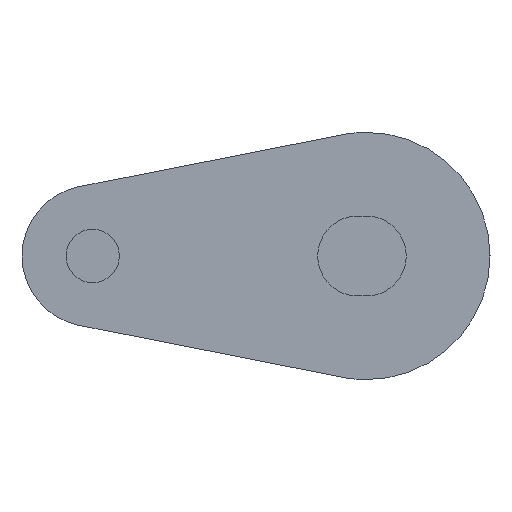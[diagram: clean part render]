
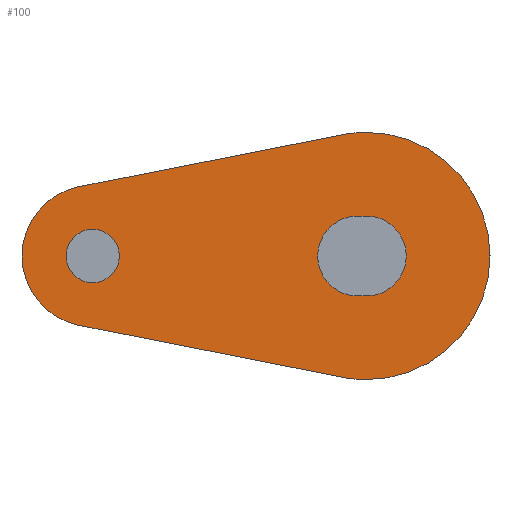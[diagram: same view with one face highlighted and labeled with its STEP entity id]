
A CAD part, left-side view. The second image highlights one B-rep face of the part: STEP entity #100.
In plain terms, the highlighted planar face has unit normal (-1, 0, 0).
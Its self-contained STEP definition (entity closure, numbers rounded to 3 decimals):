
#1 = CARTESIAN_POINT ( 'NONE',  ( -404.5, 15.5, 0. ) ) ;
#4 = CARTESIAN_POINT ( 'NONE',  ( -404.5, 0.5, -2.26 ) ) ;
#9 = DIRECTION ( 'NONE',  ( 0., 0., -1. ) ) ;
#11 = DIRECTION ( 'NONE',  ( 0., 1., 0. ) ) ;
#13 = CARTESIAN_POINT ( 'NONE',  ( -404.5, 0., 7. ) ) ;
#25 = CARTESIAN_POINT ( 'NONE',  ( -404.5, 0.5, 2.26 ) ) ;
#37 = CARTESIAN_POINT ( 'NONE',  ( -404.5, 0., -2.26 ) ) ;
#39 = CARTESIAN_POINT ( 'NONE',  ( -404.5, 0., 2.26 ) ) ;
#42 = CARTESIAN_POINT ( 'NONE',  ( -404.5, 0., -7. ) ) ;
#48 = CARTESIAN_POINT ( 'NONE',  ( -404.5, 0.5, -2.26 ) ) ;
#55 = CARTESIAN_POINT ( 'NONE',  ( -404.5, 1.355, 6.868 ) ) ;
#59 = DIRECTION ( 'NONE',  ( 0., 0., -1. ) ) ;
#63 = DIRECTION ( 'NONE',  ( -1., 0., 0. ) ) ;
#71 = CARTESIAN_POINT ( 'NONE',  ( -404.5, 15.5, 0. ) ) ;
#77 = PLANE ( 'NONE',  #923 ) ;
#100 = ADVANCED_FACE ( 'NONE', ( #330, #327, #320 ), #77, .T. ) ;
#159 = CARTESIAN_POINT ( 'NONE',  ( -404.5, 0.5, 0. ) ) ;
#160 = DIRECTION ( 'NONE',  ( 0., 0., -1. ) ) ;
#166 = DIRECTION ( 'NONE',  ( 1., 0., 0. ) ) ;
#185 = DIRECTION ( 'NONE',  ( 0., 0., -1. ) ) ;
#187 = DIRECTION ( 'NONE',  ( 1., 0., 0. ) ) ;
#188 = CARTESIAN_POINT ( 'NONE',  ( -404.5, 0.5, 2.26 ) ) ;
#195 = CARTESIAN_POINT ( 'NONE',  ( -404.5, 0., 0. ) ) ;
#196 = DIRECTION ( 'NONE',  ( 0., 0., -1. ) ) ;
#197 = DIRECTION ( 'NONE',  ( 1., 0., 0. ) ) ;
#198 = CARTESIAN_POINT ( 'NONE',  ( -404.5, 0., 0. ) ) ;
#208 = CARTESIAN_POINT ( 'NONE',  ( -404.5, 0., 0. ) ) ;
#214 = CARTESIAN_POINT ( 'NONE',  ( -404.5, 15.5, 0. ) ) ;
#215 = DIRECTION ( 'NONE',  ( 1., 0., 0. ) ) ;
#216 = DIRECTION ( 'NONE',  ( 0., 0., -1. ) ) ;
#222 = DIRECTION ( 'NONE',  ( 1., 0., 0. ) ) ;
#259 = CIRCLE ( 'NONE', #837, 7. ) ;
#274 = VECTOR ( 'NONE', #687, 1000. ) ;
#280 = LINE ( 'NONE', #688, #274 ) ;
#320 = FACE_OUTER_BOUND ( 'NONE', #446, .T. ) ;
#327 = FACE_BOUND ( 'NONE', #445, .T. ) ;
#330 = FACE_BOUND ( 'NONE', #443, .T. ) ;
#332 = ORIENTED_EDGE ( 'NONE', *, *, #789, .F. ) ;
#435 = ORIENTED_EDGE ( 'NONE', *, *, #874, .T. ) ;
#436 = ORIENTED_EDGE ( 'NONE', *, *, #879, .T. ) ;
#443 = EDGE_LOOP ( 'NONE', ( #644, #436, #435, #514 ) ) ;
#445 = EDGE_LOOP ( 'NONE', ( #576, #561 ) ) ;
#446 = EDGE_LOOP ( 'NONE', ( #508, #652, #526, #628, #496, #332 ) ) ;
#490 = CIRCLE ( 'NONE', #818, 7. ) ;
#494 = VECTOR ( 'NONE', #11, 1000. ) ;
#496 = ORIENTED_EDGE ( 'NONE', *, *, #877, .F. ) ;
#505 = CIRCLE ( 'NONE', #904, 4. ) ;
#508 = ORIENTED_EDGE ( 'NONE', *, *, #838, .F. ) ;
#514 = ORIENTED_EDGE ( 'NONE', *, *, #831, .T. ) ;
#517 = CIRCLE ( 'NONE', #866, 1.51 ) ;
#520 = LINE ( 'NONE', #4, #494 ) ;
#526 = ORIENTED_EDGE ( 'NONE', *, *, #810, .F. ) ;
#539 = VECTOR ( 'NONE', #675, 1000. ) ;
#548 = CIRCLE ( 'NONE', #909, 2.26 ) ;
#550 = CIRCLE ( 'NONE', #883, 2.26 ) ;
#551 = LINE ( 'NONE', #188, #539 ) ;
#552 = CIRCLE ( 'NONE', #939, 7. ) ;
#561 = ORIENTED_EDGE ( 'NONE', *, *, #891, .T. ) ;
#567 = CIRCLE ( 'NONE', #822, 1.51 ) ;
#576 = ORIENTED_EDGE ( 'NONE', *, *, #824, .T. ) ;
#579 = LINE ( 'NONE', #1010, #582 ) ;
#582 = VECTOR ( 'NONE', #1011, 1000. ) ;
#628 = ORIENTED_EDGE ( 'NONE', *, *, #830, .F. ) ;
#644 = ORIENTED_EDGE ( 'NONE', *, *, #870, .T. ) ;
#652 = ORIENTED_EDGE ( 'NONE', *, *, #906, .F. ) ;
#675 = DIRECTION ( 'NONE',  ( 0., -1., 0. ) ) ;
#687 = DIRECTION ( 'NONE',  ( 0., -0.981, 0.194 ) ) ;
#688 = CARTESIAN_POINT ( 'NONE',  ( -404.5, 16.274, 3.924 ) ) ;
#691 = VERTEX_POINT ( 'NONE', #13 ) ;
#696 = VERTEX_POINT ( 'NONE', #25 ) ;
#697 = VERTEX_POINT ( 'NONE', #39 ) ;
#704 = VERTEX_POINT ( 'NONE', #55 ) ;
#709 = VERTEX_POINT ( 'NONE', #48 ) ;
#717 = VERTEX_POINT ( 'NONE', #42 ) ;
#721 = VERTEX_POINT ( 'NONE', #37 ) ;
#727 = VERTEX_POINT ( 'NONE', #951 ) ;
#728 = VERTEX_POINT ( 'NONE', #972 ) ;
#737 = VERTEX_POINT ( 'NONE', #962 ) ;
#738 = VERTEX_POINT ( 'NONE', #961 ) ;
#745 = VERTEX_POINT ( 'NONE', #954 ) ;
#772 = DIRECTION ( 'NONE',  ( 0., 0., -1. ) ) ;
#773 = DIRECTION ( 'NONE',  ( 1., 0., 0. ) ) ;
#781 = CARTESIAN_POINT ( 'NONE',  ( -404.5, 0., 0. ) ) ;
#789 = EDGE_CURVE ( 'NONE', #728, #704, #280, .T. ) ;
#810 = EDGE_CURVE ( 'NONE', #717, #727, #259, .T. ) ;
#818 = AXIS2_PLACEMENT_3D ( 'NONE', #208, #222, #9 ) ;
#822 = AXIS2_PLACEMENT_3D ( 'NONE', #974, #980, #981 ) ;
#824 = EDGE_CURVE ( 'NONE', #738, #745, #517, .T. ) ;
#830 = EDGE_CURVE ( 'NONE', #691, #717, #490, .T. ) ;
#831 = EDGE_CURVE ( 'NONE', #721, #709, #520, .T. ) ;
#837 = AXIS2_PLACEMENT_3D ( 'NONE', #781, #773, #772 ) ;
#838 = EDGE_CURVE ( 'NONE', #737, #728, #505, .T. ) ;
#866 = AXIS2_PLACEMENT_3D ( 'NONE', #214, #215, #216 ) ;
#870 = EDGE_CURVE ( 'NONE', #709, #696, #548, .T. ) ;
#874 = EDGE_CURVE ( 'NONE', #697, #721, #550, .T. ) ;
#877 = EDGE_CURVE ( 'NONE', #704, #691, #552, .T. ) ;
#879 = EDGE_CURVE ( 'NONE', #696, #697, #551, .T. ) ;
#883 = AXIS2_PLACEMENT_3D ( 'NONE', #198, #187, #185 ) ;
#891 = EDGE_CURVE ( 'NONE', #745, #738, #567, .T. ) ;
#904 = AXIS2_PLACEMENT_3D ( 'NONE', #1, #1069, #1070 ) ;
#906 = EDGE_CURVE ( 'NONE', #727, #737, #579, .T. ) ;
#909 = AXIS2_PLACEMENT_3D ( 'NONE', #159, #197, #196 ) ;
#923 = AXIS2_PLACEMENT_3D ( 'NONE', #71, #63, #59 ) ;
#939 = AXIS2_PLACEMENT_3D ( 'NONE', #195, #166, #160 ) ;
#951 = CARTESIAN_POINT ( 'NONE',  ( -404.5, 1.355, -6.868 ) ) ;
#954 = CARTESIAN_POINT ( 'NONE',  ( -404.5, 15.5, 1.51 ) ) ;
#961 = CARTESIAN_POINT ( 'NONE',  ( -404.5, 15.5, -1.51 ) ) ;
#962 = CARTESIAN_POINT ( 'NONE',  ( -404.5, 16.274, -3.924 ) ) ;
#972 = CARTESIAN_POINT ( 'NONE',  ( -404.5, 16.274, 3.924 ) ) ;
#974 = CARTESIAN_POINT ( 'NONE',  ( -404.5, 15.5, 0. ) ) ;
#980 = DIRECTION ( 'NONE',  ( 1., 0., 0. ) ) ;
#981 = DIRECTION ( 'NONE',  ( 0., 0., -1. ) ) ;
#1010 = CARTESIAN_POINT ( 'NONE',  ( -404.5, 1.355, -6.868 ) ) ;
#1011 = DIRECTION ( 'NONE',  ( 0., 0.981, 0.194 ) ) ;
#1069 = DIRECTION ( 'NONE',  ( 1., 0., 0. ) ) ;
#1070 = DIRECTION ( 'NONE',  ( 0., 0., -1. ) ) ;
